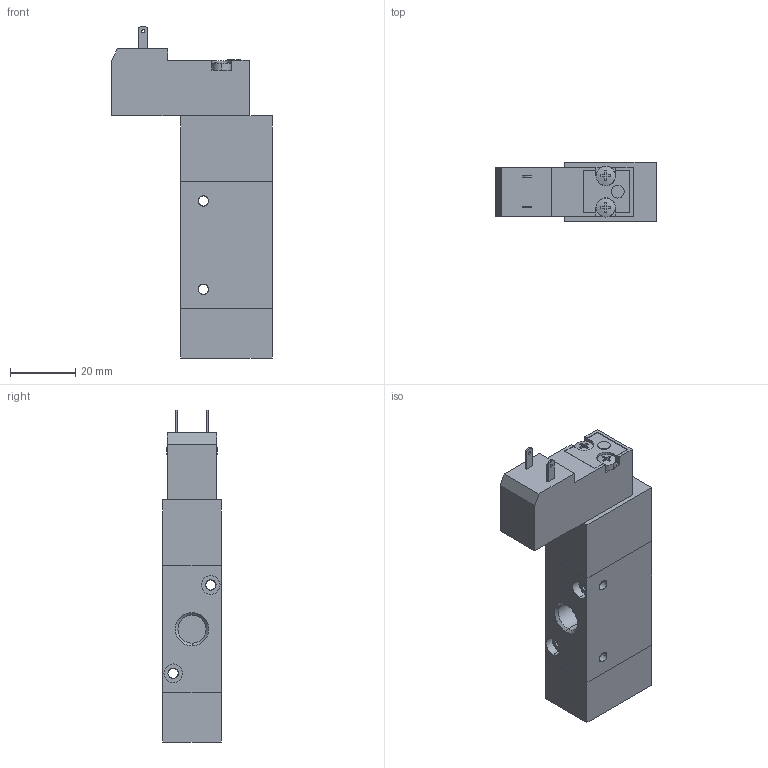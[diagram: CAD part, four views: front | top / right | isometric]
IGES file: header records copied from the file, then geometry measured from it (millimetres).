
Global section: file name: No Iges File Name specified; native system: AutoDesk Inventor R11.0; preprocessor: AutoDesk Inventor Iges Exporter R11.0; author: No Author specified; organization: No Organization specified; date: 20061201.120428; units: millimetre
Bounding box: 49 x 18 x 101.49 mm (x, y, z)
Volume: 46401.6 mm3; surface area: 13887.6 mm2
Topology: 3 solids, 3 shells, 178 faces, 441 edges, 272 vertices
Faces by surface type: plane 78, bspline 77, revolution 14, cylinder 8, sphere 1
